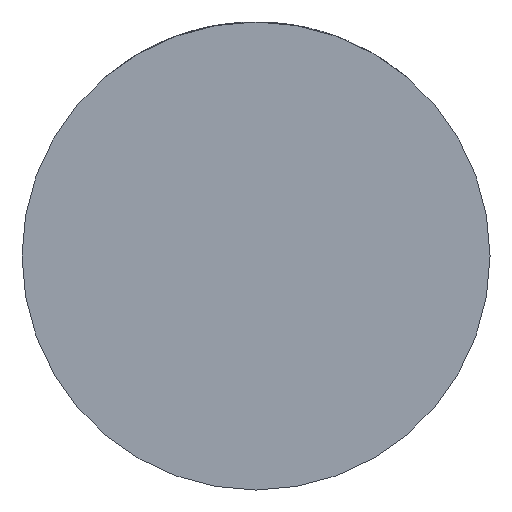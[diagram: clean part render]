
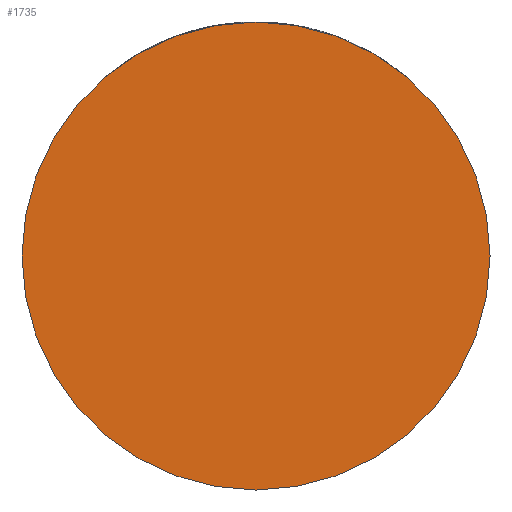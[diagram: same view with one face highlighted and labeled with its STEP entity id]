
A CAD part, front view. The second image highlights one B-rep face of the part: STEP entity #1735.
In plain terms, the highlighted planar face has unit normal (0, -1, 0).
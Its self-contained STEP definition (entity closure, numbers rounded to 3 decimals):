
#24 = DIRECTION ( 'NONE',  ( 1., 0., 0. ) ) ;
#95 = VERTEX_POINT ( 'NONE', #187 ) ;
#187 = CARTESIAN_POINT ( 'NONE',  ( 32., -28., 0. ) ) ;
#336 = CARTESIAN_POINT ( 'NONE',  ( 0., -28., 0. ) ) ;
#418 = AXIS2_PLACEMENT_3D ( 'NONE', #4286, #4308, #756 ) ;
#640 = EDGE_LOOP ( 'NONE', ( #2412, #1820 ) ) ;
#756 = DIRECTION ( 'NONE',  ( 1., 0., 0. ) ) ;
#1128 = CIRCLE ( 'NONE', #3648, 32. ) ;
#1234 = CARTESIAN_POINT ( 'NONE',  ( -32., -28., 0. ) ) ;
#1529 = PLANE ( 'NONE',  #418 ) ;
#1716 = DIRECTION ( 'NONE',  ( 1., 0., 0. ) ) ;
#1735 = ADVANCED_FACE ( 'NONE', ( #1866 ), #1529, .T. ) ;
#1820 = ORIENTED_EDGE ( 'NONE', *, *, #2867, .T. ) ;
#1866 = FACE_OUTER_BOUND ( 'NONE', #640, .T. ) ;
#1918 = AXIS2_PLACEMENT_3D ( 'NONE', #3475, #2111, #24 ) ;
#2049 = DIRECTION ( 'NONE',  ( 0., -1., 0. ) ) ;
#2111 = DIRECTION ( 'NONE',  ( 0., -1., 0. ) ) ;
#2412 = ORIENTED_EDGE ( 'NONE', *, *, #2727, .T. ) ;
#2727 = EDGE_CURVE ( 'NONE', #3761, #95, #1128, .T. ) ;
#2867 = EDGE_CURVE ( 'NONE', #95, #3761, #3873, .T. ) ;
#3475 = CARTESIAN_POINT ( 'NONE',  ( 0., -28., 0. ) ) ;
#3648 = AXIS2_PLACEMENT_3D ( 'NONE', #336, #2049, #1716 ) ;
#3761 = VERTEX_POINT ( 'NONE', #1234 ) ;
#3873 = CIRCLE ( 'NONE', #1918, 32. ) ;
#4286 = CARTESIAN_POINT ( 'NONE',  ( 0., -28., 0. ) ) ;
#4308 = DIRECTION ( 'NONE',  ( 0., -1., 0. ) ) ;
